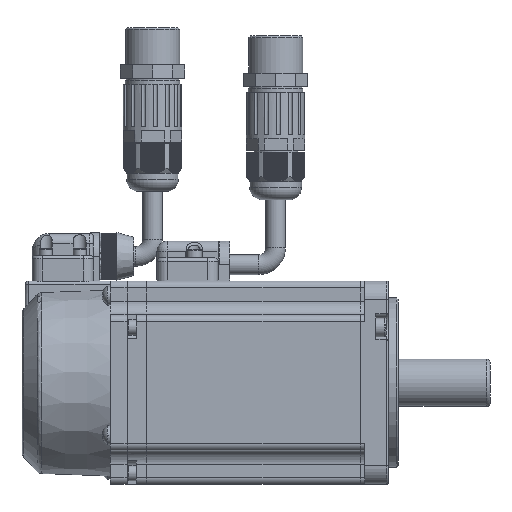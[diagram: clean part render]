
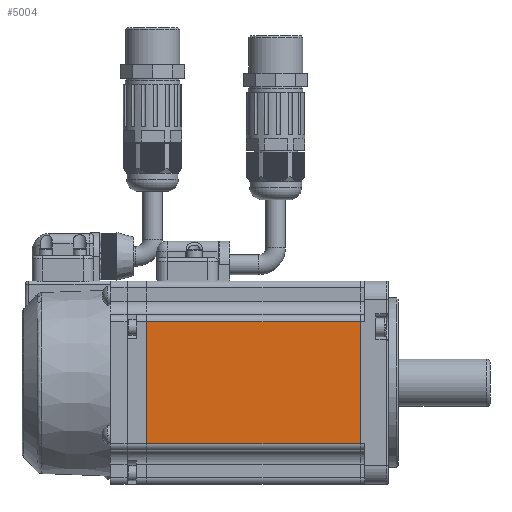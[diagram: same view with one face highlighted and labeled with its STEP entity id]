
A CAD part, left-side view. The second image highlights one B-rep face of the part: STEP entity #5004.
In plain terms, the highlighted planar face has unit normal (-1, 0, 0).
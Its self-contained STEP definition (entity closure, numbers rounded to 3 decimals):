
#5004=ADVANCED_FACE('',(#9446),#7711,.F.);
#7711=PLANE('',#47427);
#9446=FACE_OUTER_BOUND('',#11860,.T.);
#11860=EDGE_LOOP('',(#14931,#14932,#14933,#14934));
#14931=ORIENTED_EDGE('',*,*,#33026,.T.);
#14932=ORIENTED_EDGE('',*,*,#33027,.F.);
#14933=ORIENTED_EDGE('',*,*,#33028,.T.);
#14934=ORIENTED_EDGE('',*,*,#33011,.F.);
#28553=VERTEX_POINT('',#64181);
#28554=VERTEX_POINT('',#64183);
#28567=VERTEX_POINT('',#64212);
#28568=VERTEX_POINT('',#64214);
#33011=EDGE_CURVE('',#28553,#28554,#39822,.T.);
#33026=EDGE_CURVE('',#28553,#28567,#39829,.T.);
#33027=EDGE_CURVE('',#28568,#28567,#39830,.T.);
#33028=EDGE_CURVE('',#28568,#28554,#39831,.T.);
#39822=LINE('',#64182,#43619);
#39829=LINE('',#64211,#43626);
#39830=LINE('',#64213,#43627);
#39831=LINE('',#64215,#43628);
#43619=VECTOR('',#51750,1.);
#43626=VECTOR('',#51775,1.);
#43627=VECTOR('',#51776,1.);
#43628=VECTOR('',#51777,1.);
#47427=AXIS2_PLACEMENT_3D('',#64216,#51778,#51779);
#51750=DIRECTION('',(0.,0.,1.));
#51775=DIRECTION('',(0.,-1.,0.));
#51776=DIRECTION('',(0.,0.,-1.));
#51777=DIRECTION('',(0.,1.,0.));
#51778=DIRECTION('',(1.,0.,0.));
#51779=DIRECTION('',(0.,-1.,0.));
#64181=CARTESIAN_POINT('',(-115.303,158.291,-3.479));
#64182=CARTESIAN_POINT('',(-115.303,158.291,14.521));
#64183=CARTESIAN_POINT('',(-115.303,158.291,32.521));
#64211=CARTESIAN_POINT('',(-115.303,144.19,-3.479));
#64212=CARTESIAN_POINT('',(-115.303,95.19,-3.479));
#64213=CARTESIAN_POINT('',(-115.303,95.19,14.521));
#64214=CARTESIAN_POINT('',(-115.303,95.19,32.521));
#64215=CARTESIAN_POINT('',(-115.303,144.19,32.521));
#64216=CARTESIAN_POINT('',(-115.303,144.19,-15.479));
